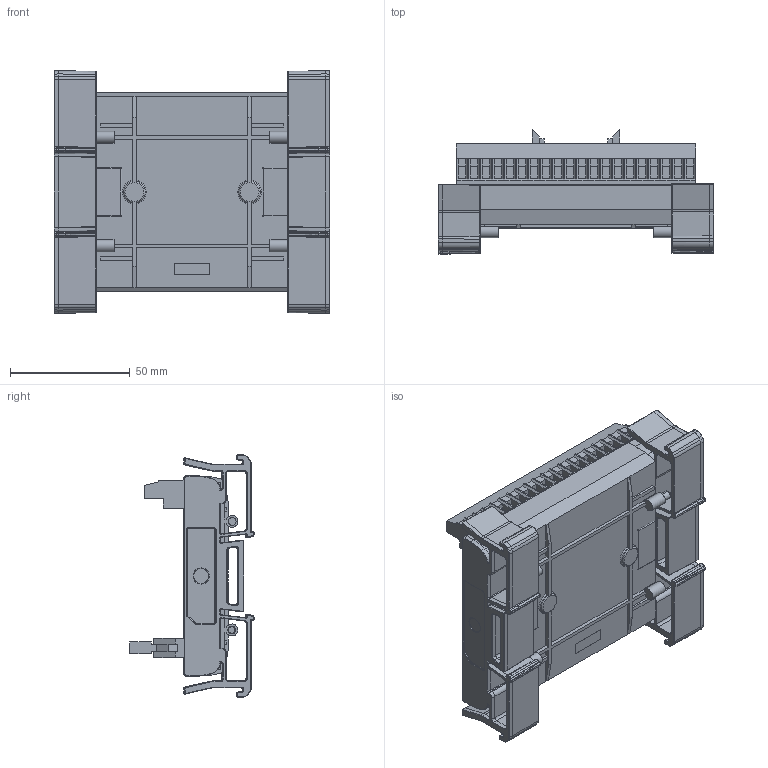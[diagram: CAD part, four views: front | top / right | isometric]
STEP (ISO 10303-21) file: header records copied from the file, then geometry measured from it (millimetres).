
FILE_DESCRIPTION((''),'2;1');
FILE_NAME('10000723698_ASM','2019-02-08T14:01:30',('SEminovi'),('Rockwell Automation'),'CREO PARAMETRIC BY PTC INC, 2017380','CREO PARAMETRIC BY PTC INC, 2017380','');
FILE_SCHEMA(('CONFIG_CONTROL_DESIGN'));
Length unit declared in the file: millimetre
Products named in the file (6): 10000723696; 10000723697; 41164-CONNECT20; 41165-030-TOP; 10000984545; 10000723698_ASM
Assembly tree (6 placements, depth 2):
  10000723698_ASM
    10000723696
    10000723697
    41164-CONNECT20
    41165-030-TOP
    10000984545  x2
Bounding box: 115 x 51.88 x 100.98 mm (x, y, z)
Volume: 83554 mm3; surface area: 82782.1 mm2
Topology: 6 solids, 12 shells, 1986 faces, 4707 edges, 2773 vertices
Faces by surface type: plane 849, cylinder 710, bspline 352, sphere 28, cone 24, torus 23
Entity records: 47381 total; most frequent: CARTESIAN_POINT 18480, ORIENTED_EDGE 6220, DIRECTION 5527, EDGE_CURVE 3126, VECTOR 2029, LINE 2029, VERTEX_POINT 1873, AXIS2_PLACEMENT_3D 1749
